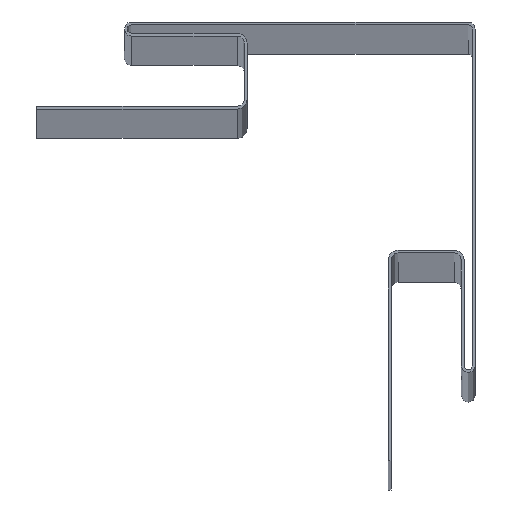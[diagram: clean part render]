
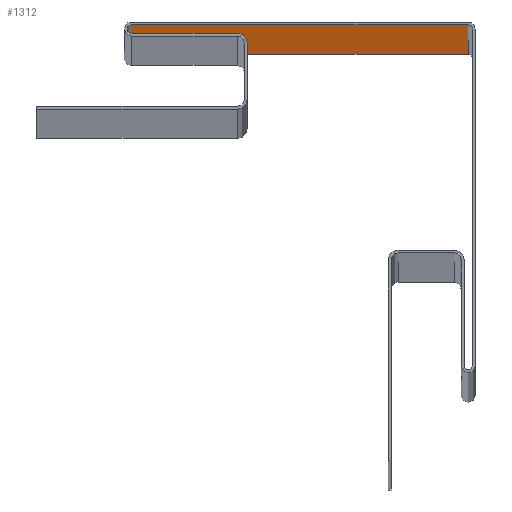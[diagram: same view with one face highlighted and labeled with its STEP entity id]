
A CAD part, top view. The second image highlights one B-rep face of the part: STEP entity #1312.
In plain terms, the highlighted planar face has unit normal (0, -1, 0).
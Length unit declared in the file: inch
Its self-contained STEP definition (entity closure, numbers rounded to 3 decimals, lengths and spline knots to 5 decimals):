
#29 = VECTOR ( 'NONE', #192, 39.37008 ) ;
#39 = ORIENTED_EDGE ( 'NONE', *, *, #1214, .T. ) ;
#57 = PLANE ( 'NONE',  #516 ) ;
#99 = DIRECTION ( 'NONE',  ( 0., 0., -1. ) ) ;
#107 = EDGE_CURVE ( 'NONE', #503, #1323, #877, .T. ) ;
#184 = LINE ( 'NONE', #1271, #749 ) ;
#192 = DIRECTION ( 'NONE',  ( 0., 0., -1. ) ) ;
#200 = ORIENTED_EDGE ( 'NONE', *, *, #261, .F. ) ;
#213 = ORIENTED_EDGE ( 'NONE', *, *, #107, .F. ) ;
#215 = VERTEX_POINT ( 'NONE', #339 ) ;
#221 = EDGE_CURVE ( 'NONE', #215, #329, #184, .T. ) ;
#261 = EDGE_CURVE ( 'NONE', #1323, #329, #417, .T. ) ;
#302 = ORIENTED_EDGE ( 'NONE', *, *, #221, .T. ) ;
#329 = VERTEX_POINT ( 'NONE', #808 ) ;
#339 = CARTESIAN_POINT ( 'NONE',  ( -2.45, -0.02, 120. ) ) ;
#381 = EDGE_LOOP ( 'NONE', ( #200, #213, #39, #302 ) ) ;
#392 = CARTESIAN_POINT ( 'NONE',  ( -0.05, -0.02, 120. ) ) ;
#417 = LINE ( 'NONE', #954, #1221 ) ;
#503 = VERTEX_POINT ( 'NONE', #721 ) ;
#516 = AXIS2_PLACEMENT_3D ( 'NONE', #1184, #899, #1022 ) ;
#695 = CARTESIAN_POINT ( 'NONE',  ( -0.05, -0.02, 0. ) ) ;
#721 = CARTESIAN_POINT ( 'NONE',  ( -0.05, -0.02, 120. ) ) ;
#749 = VECTOR ( 'NONE', #99, 39.37008 ) ;
#808 = CARTESIAN_POINT ( 'NONE',  ( -2.45, -0.02, 0. ) ) ;
#877 = LINE ( 'NONE', #392, #29 ) ;
#879 = CARTESIAN_POINT ( 'NONE',  ( -2.45, -0.02, 120. ) ) ;
#891 = DIRECTION ( 'NONE',  ( -1., 0., 0. ) ) ;
#899 = DIRECTION ( 'NONE',  ( 0., -1., 0. ) ) ;
#954 = CARTESIAN_POINT ( 'NONE',  ( -2.45, -0.02, 0. ) ) ;
#1022 = DIRECTION ( 'NONE',  ( 1., 0., 0. ) ) ;
#1076 = LINE ( 'NONE', #879, #1250 ) ;
#1184 = CARTESIAN_POINT ( 'NONE',  ( -2.45, -0.02, 120. ) ) ;
#1214 = EDGE_CURVE ( 'NONE', #503, #215, #1076, .T. ) ;
#1221 = VECTOR ( 'NONE', #891, 39.37008 ) ;
#1250 = VECTOR ( 'NONE', #1300, 39.37008 ) ;
#1262 = FACE_OUTER_BOUND ( 'NONE', #381, .T. ) ;
#1271 = CARTESIAN_POINT ( 'NONE',  ( -2.45, -0.02, 120. ) ) ;
#1300 = DIRECTION ( 'NONE',  ( -1., 0., 0. ) ) ;
#1312 = ADVANCED_FACE ( 'NONE', ( #1262 ), #57, .T. ) ;
#1323 = VERTEX_POINT ( 'NONE', #695 ) ;
